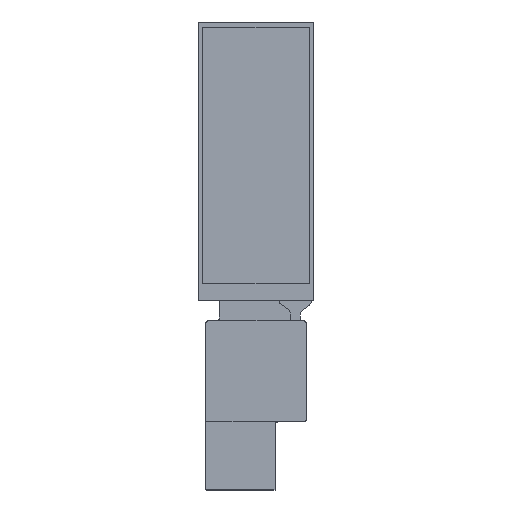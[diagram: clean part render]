
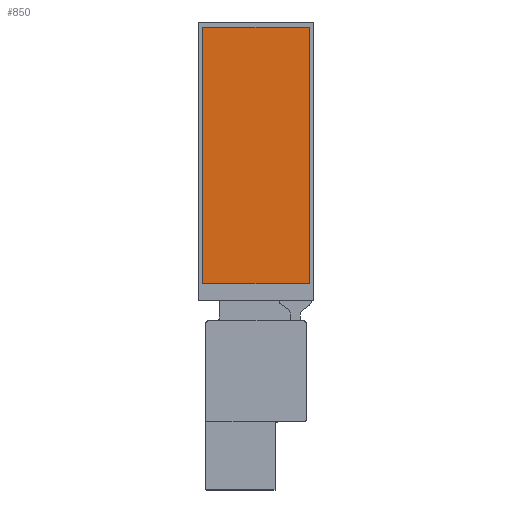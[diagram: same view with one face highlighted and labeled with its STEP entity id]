
A CAD part, top view. The second image highlights one B-rep face of the part: STEP entity #850.
In plain terms, the highlighted planar face has unit normal (0, 0, 1).
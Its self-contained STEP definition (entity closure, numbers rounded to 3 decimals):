
#129=DIRECTION('',(0.,1.,0.));
#130=VECTOR('',#129,94.032);
#131=CARTESIAN_POINT('',(19.59,-47.016,1.178));
#132=LINE('',#131,#130);
#133=DIRECTION('',(1.,0.,0.));
#134=VECTOR('',#133,39.18);
#135=CARTESIAN_POINT('',(-19.59,-47.016,1.178));
#136=LINE('',#135,#134);
#137=DIRECTION('',(0.,-1.,0.));
#138=VECTOR('',#137,94.032);
#139=CARTESIAN_POINT('',(-19.59,47.016,1.178));
#140=LINE('',#139,#138);
#141=DIRECTION('',(-1.,0.,0.));
#142=VECTOR('',#141,39.18);
#143=CARTESIAN_POINT('',(19.59,47.016,1.178));
#144=LINE('',#143,#142);
#649=CARTESIAN_POINT('',(19.59,-47.016,1.178));
#650=CARTESIAN_POINT('',(19.59,47.016,1.178));
#651=VERTEX_POINT('',#649);
#652=VERTEX_POINT('',#650);
#653=CARTESIAN_POINT('',(-19.59,47.016,1.178));
#654=VERTEX_POINT('',#653);
#655=CARTESIAN_POINT('',(-19.59,-47.016,1.178));
#656=VERTEX_POINT('',#655);
#839=CARTESIAN_POINT('',(0.,0.,1.175));
#840=DIRECTION('',(0.,0.,1.));
#841=DIRECTION('',(1.,0.,0.));
#842=AXIS2_PLACEMENT_3D('',#839,#840,#841);
#843=PLANE('',#842);
#844=ORIENTED_EDGE('',*,*,#816,.F.);
#845=ORIENTED_EDGE('',*,*,#822,.F.);
#846=ORIENTED_EDGE('',*,*,#820,.F.);
#847=ORIENTED_EDGE('',*,*,#818,.F.);
#848=EDGE_LOOP('',(#844,#845,#846,#847));
#849=FACE_OUTER_BOUND('',#848,.F.);
#816=EDGE_CURVE('',#651,#652,#132,.T.);
#818=EDGE_CURVE('',#652,#654,#144,.T.);
#820=EDGE_CURVE('',#654,#656,#140,.T.);
#822=EDGE_CURVE('',#656,#651,#136,.T.);
#850=ADVANCED_FACE('',(#849),#843,.T.);
